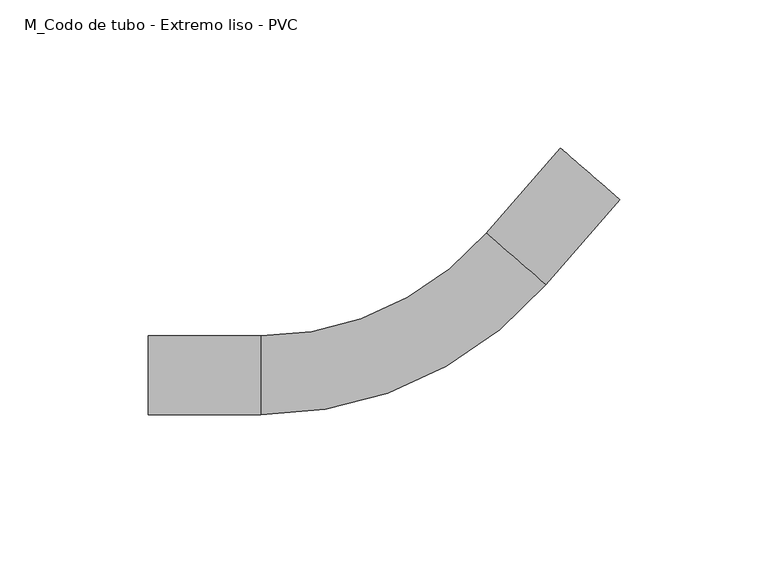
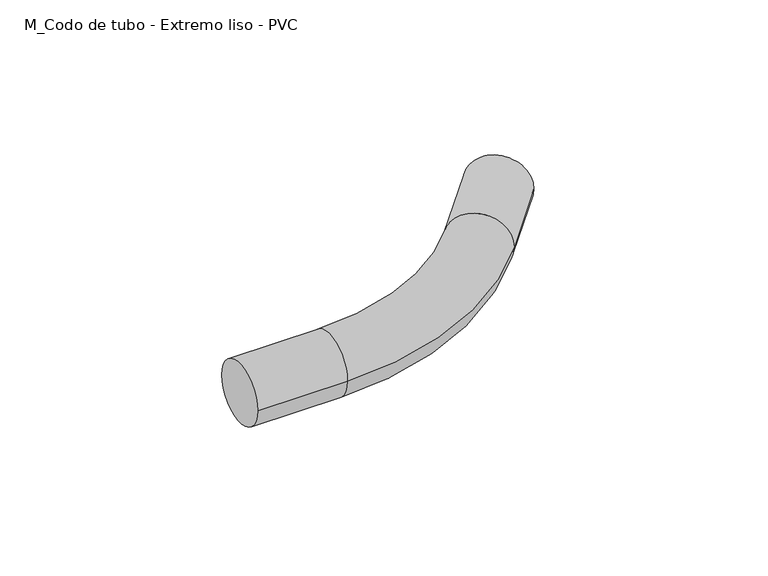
"""IFC4 building model written with IfcOpenShell, lengths in millimetres: cable carrier fitting geometry, M_Codo de tubo - Extremo liso - PVC : CODO ILUMINACION."""

from ifc_helpers import new_model, si_unit, point, frame, origin, place, context, project, spatial, circle_curve, ellipse_curve, trimmed, source, transform, mapped, element, save
from ifc_brep_helpers import plane_surface, cylinder_surface, revolved_surface, advanced_brep


def m_codo_de_tubo_extremo_liso_pvc_f02e6b77(model_context):
    return source(origin(), model_context, "Body", "AdvancedBrep", [
        advanced_brep(
        [(-90.189511, -13.335, 0.0), (-90.189511, 13.335, 0.0), (-52.089511, -13.335, 0.0), (-52.089511, 13.335, 0.0), (24.1097418, 48.0610001, 0.0), (44.2378463, 30.5639058, 0.0), (69.2336953, 59.3183408, 0.0), (49.1055908, 76.8154351, 0.0)],
        [
            (0, 1, circle_curve(frame((-90.189511, 0.0, 0.0), z_axis=(-1.0, 0.0, 0.0), x_axis=(0.0, 1.0, 0.0)), 13.335)),
            (1, 0, circle_curve(frame((-90.189511, 0.0, 0.0), z_axis=(-1.0, 0.0, 0.0), x_axis=(0.0, 1.0, 0.0)), 13.335)),
            (0, 2),
            (2, 3, circle_curve(frame((-52.089511, 0.0, 0.0), z_axis=(-1.0, 0.0, 0.0), x_axis=(0.0, 1.0, 0.0)), 13.335)),
            (3, 1),
            (3, 2, circle_curve(frame((-52.089511, 0.0, 0.0), z_axis=(-1.0, 0.0, 0.0), x_axis=(0.0, 1.0, 0.0)), 13.335)),
            (4, 3, circle_curve(frame((-52.089511, 114.3, 0.0), z_axis=(0.0, 0.0, -1.0), x_axis=(0.0, -1.0, 0.0)), 100.965)),
            (2, 5, circle_curve(frame((-52.089511, 114.3, 0.0), z_axis=(0.0, 0.0, 1.0), x_axis=(0.0, -1.0, 0.0)), 127.635)),
            (5, 4, circle_curve(frame((34.173794, 39.312453, 0.0), z_axis=(-0.6560590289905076, -0.7547095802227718, 0.0), x_axis=(-0.7547095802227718, 0.6560590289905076, 0.0)), 13.335)),
            (4, 5, circle_curve(frame((34.173794, 39.312453, 0.0), z_axis=(-0.6560590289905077, -0.7547095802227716, 0.0), x_axis=(-0.7547095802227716, 0.6560590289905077, 0.0)), 13.335)),
            (6, 7, circle_curve(frame((59.169643, 68.066888, 0.0), z_axis=(0.6560590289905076, 0.7547095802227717, 0.0), x_axis=(-0.7547095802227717, 0.6560590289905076, 0.0)), 13.335)),
            (7, 6, circle_curve(frame((59.169643, 68.066888, 0.0), z_axis=(0.6560590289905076, 0.7547095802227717, 0.0), x_axis=(-0.7547095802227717, 0.6560590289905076, 0.0)), 13.335)),
            (5, 6),
            (7, 4),
        ],
        [
            plane_surface(frame((-90.189511, 0.0, 0.0), z_axis=(-1.0, 0.0, 0.0), x_axis=(0.0, 0.0, 1.0))),
            cylinder_surface(frame((-90.189511, 0.0, 0.0), z_axis=(-1.0, 0.0, 0.0), x_axis=(0.0, 1.0, 0.0)), 13.335),
            revolved_surface(trimmed(ellipse_curve(frame((-52.089511, 0.0, 0.0), z_axis=(-1.0, 0.0, 0.0), x_axis=(0.0, 1.0, 0.0)), 13.335, 13.335), [point((-52.089511, -13.335, 0.0))], [point((-52.089511, 13.335, 0.0))], True, "CARTESIAN"), (-52.089511, 114.3, 0.0), (0.0, 0.0, 1.0)),
            revolved_surface(trimmed(ellipse_curve(frame((-52.089511, 0.0, 0.0), z_axis=(-1.0, 0.0, 0.0), x_axis=(0.0, 1.0, 0.0)), 13.335, 13.335), [point((-52.089511, 13.335, 0.0))], [point((-52.089511, -13.335, 0.0))], True, "CARTESIAN"), (-52.089511, 114.3, 0.0), (0.0, 0.0, 1.0)),
            plane_surface(frame((59.169643, 68.066888, 0.0), z_axis=(0.6560590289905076, 0.7547095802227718, 0.0), x_axis=(0.0, 0.0, 1.0))),
            cylinder_surface(frame((34.173794, 39.312453, 0.0), z_axis=(-0.6560590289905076, -0.7547095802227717, 0.0), x_axis=(-0.7547095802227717, 0.6560590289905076, 0.0)), 13.335),
        ],
        [
            (0, [[1, 2]]),
            (1, [[-1, 3, 4, 5]]),
            (1, [[-2, -5, 6, -3]]),
            (2, [[7, -4, 8, 9]]),
            (3, [[-8, -6, -7, 10]]),
            (4, [[11, 12]]),
            (5, [[-9, 13, -12, 14]]),
            (5, [[-10, -14, -11, -13]]),
        ],
    ),
    ])


if __name__ == "__main__":
    model = new_model("IFC4")
    model_context = context("Model", 3, world=origin())
    ifc_project = project(units=[si_unit("LENGTHUNIT", "METRE", prefix="MILLI")], contexts=[model_context])
    site = spatial("IfcSite", under=ifc_project)
    building = spatial("IfcBuilding", under=site)
    placement = place(None, origin())
    m_codo_de_tubo_extremo_liso_pvc_shape = m_codo_de_tubo_extremo_liso_pvc_f02e6b77(model_context)
    element("IfcCableCarrierFitting", 1, ObjectType="M_Codo de tubo - Extremo liso - PVC : CODO ILUMINACION", at=placement, inside=building, context=model_context, shape_type="MappedRepresentation", body=[
        mapped(m_codo_de_tubo_extremo_liso_pvc_shape, transform((0.0, 0.0, 0.0), x_axis=(1.0, 0.0, 0.0), y_axis=(0.0, 1.0, 0.0), z_axis=(0.0, 0.0, 1.0))),
    ])
    save(model, "model.ifc")
